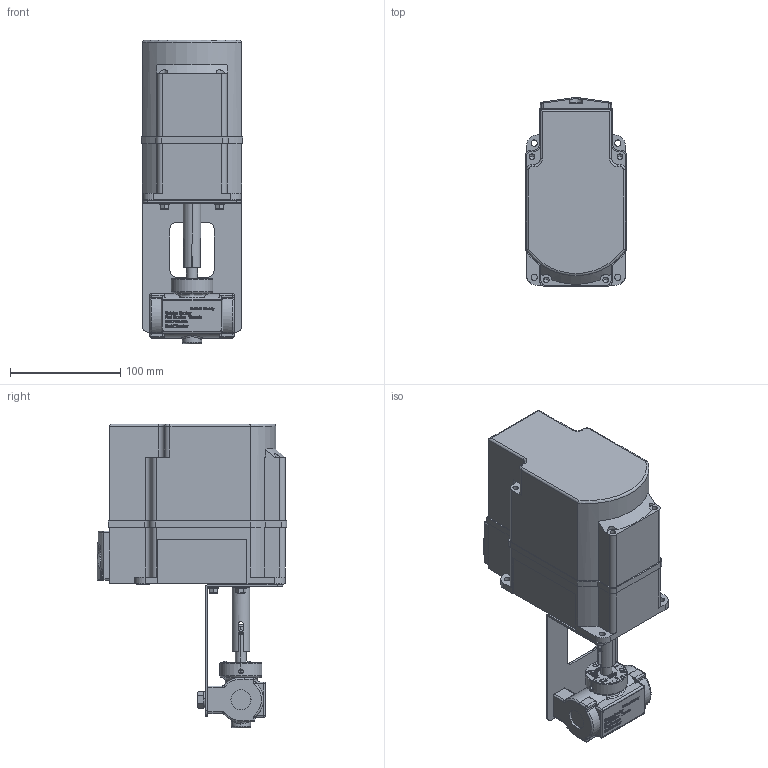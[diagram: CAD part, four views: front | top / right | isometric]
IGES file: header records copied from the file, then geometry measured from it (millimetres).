
Global section: file name: No Iges File Name specified; native system: AutoDesk Inventor R12.0; preprocessor: AutoDesk Inventor Iges Exporter R12.0; date: 20110328.092230; units: millimetre
Bounding box: 92 x 171.99 x 276 mm (x, y, z)
Volume: 2014071.7 mm3; surface area: 160947.6 mm2
Topology: 1 solids, 14 shells, 2971 faces, 7952 edges, 5189 vertices
Faces by surface type: plane 1590, bspline 991, cylinder 193, revolution 93, cone 47, torus 47, sphere 10
Full cylindrical faces by diameter (mm): 9.2 x3, 14.8 x2
